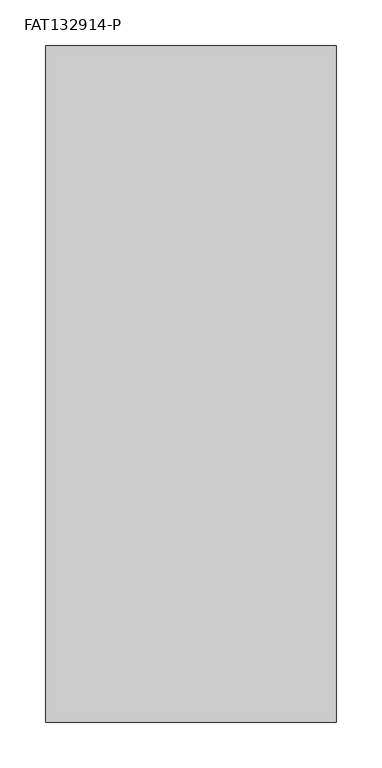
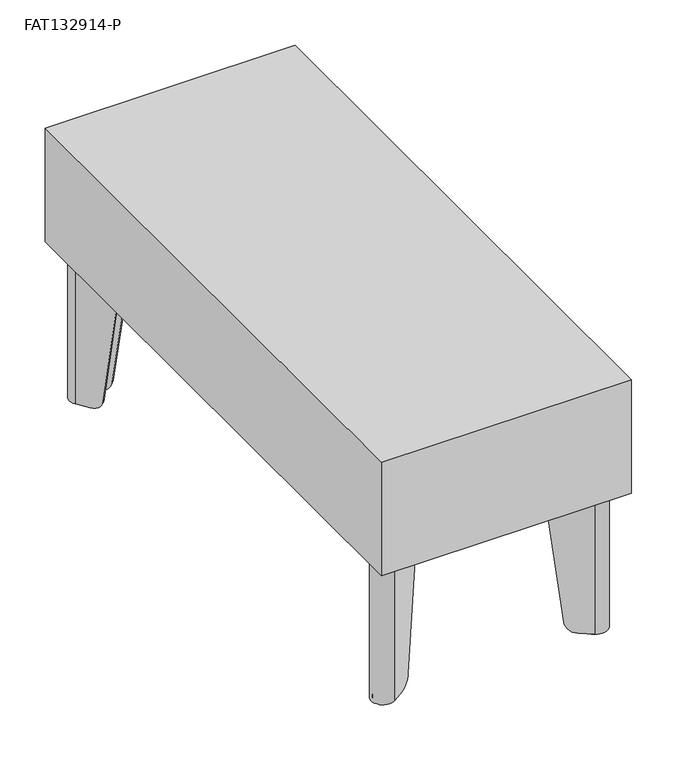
"""IFC4 building model written with IfcOpenShell, lengths in millimetres: furniture geometry, Stance_HC-Flora-Table_Straight : FAT132914-P."""

from ifc_helpers import new_model, si_unit, point, frame, frame_2d, origin, origin_with_axes, place, context, project, spatial, polyline, circle_curve, ellipse_curve, trimmed, segment, composite_curve, outline, extrude, source, transform, mapped, element, save
from ifc_brep_helpers import plane_surface, cylinder_surface, revolved_surface, advanced_brep


def fat132914_p_32fc218b(model_context):
    return source(origin(), model_context, "Body", "SolidModel", [
        extrude(outline(composite_curve([segment(polyline([(274.1779251, -48.593371), (287.4828248, -39.2771437)]), True, "CONTINUOUS"), segment(trimmed(circle_curve(frame_2d((294.1333442, -48.7750329)), 11.5947965), [point((287.4828248, -39.2771437))], [point((303.6312333, -55.4255523))], False, "CARTESIAN"), True, "CONTINUOUS"), segment(polyline([(303.6312333, -55.4255523), (294.315006, -68.730452), (274.1779251, -48.593371)]), True, "CONTINUOUS")], self_intersect=False)), frame((0.0, 0.0, 3.175), z_axis=(0.0, 0.0, 1.0), x_axis=(1.0, 0.0, 0.0)), (0.0, 0.0, 1.0), 3.3792927),
        advanced_brep(
        [(274.3401042, -102.8613619, 193.6877233), (306.2642107, -57.26919, 193.6877233), (285.6391871, -36.6441664, 193.6877233), (240.0470178, -68.568271, 193.6877233), (241.8906556, -71.2012484, 193.6877233), (287.4828248, -39.2771437, 193.6877233), (303.6312333, -55.4255523, 193.6877233), (271.7071268, -101.0177242, 193.6877233), (274.3401042, -102.8613619, 189.1419595), (303.6312333, -55.4255523, 3.1876992), (293.5105238, -69.8793673, 3.1876992), (284.3334277, -82.9855678, 17.1280233), (287.4828248, -39.2771437, 3.1876992), (259.9228092, -58.5749494, 17.1280233), (273.0290098, -49.3978533, 3.1876992), (240.0470178, -68.568271, 189.1419334), (285.6391871, -36.6441664, 3.1876992), (270.7211121, -47.0899556, 3.1876992), (257.6149115, -56.2670517, 17.1280233), (306.2642107, -57.26919, 3.1876992), (286.6413254, -85.2934656, 17.1280233), (295.8184215, -72.187265, 3.1876992)],
        [
            (0, 1),
            (1, 2, circle_curve(frame((294.1333442, -48.7750329, 193.6877233), z_axis=(0.0, 0.0, 1.0), x_axis=(-1.0, 0.0, 0.0)), 14.8090724)),
            (2, 3),
            (3, 4),
            (4, 5),
            (5, 6, circle_curve(frame((294.1333442, -48.7750329, 193.6877233), z_axis=(0.0, 0.0, -1.0), x_axis=(-1.0, 0.0, 0.0)), 11.5947965)),
            (6, 7),
            (7, 0),
            (7, 8),
            (8, 0),
            (6, 9),
            (9, 10),
            (10, 11, ellipse_curve(frame((293.5105238, -69.8793673, 19.0626992), z_axis=(-0.8191509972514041, 0.5735779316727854, 0.0), x_axis=(-0.5735779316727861, -0.8191509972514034, 0.0)), 16.1198923, 15.875)),
            (11, 7),
            (5, 12),
            (12, 9, circle_curve(frame((294.1333442, -48.7750329, 3.1876992), z_axis=(0.0, 0.0, -1.0), x_axis=(-1.0, 0.0, 0.0)), 11.5947965)),
            (4, 13),
            (13, 14, ellipse_curve(frame((273.0290098, -49.3978533, 19.0626992), z_axis=(0.5735779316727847, -0.8191509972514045, 0.0), x_axis=(0.8191509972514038, 0.5735779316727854, 0.0)), 16.1198923, 15.875)),
            (14, 12),
            (3, 15),
            (15, 4),
            (2, 16),
            (16, 17),
            (17, 18, ellipse_curve(frame((270.7211121, -47.0899556, 19.0626992), z_axis=(-0.5735779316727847, 0.8191509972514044, 0.0), x_axis=(0.8191509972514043, 0.573577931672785, 0.0)), 16.1198923, 15.875)),
            (18, 15),
            (1, 19),
            (19, 16, circle_curve(frame((294.1333442, -48.7750329, 3.1876992), z_axis=(0.0, 0.0, 1.0), x_axis=(-1.0, 0.0, 0.0)), 14.8090724)),
            (8, 20),
            (20, 21, ellipse_curve(frame((295.8184215, -72.187265, 19.0626992), z_axis=(0.8191509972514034, -0.5735779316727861, 0.0), x_axis=(-0.5735779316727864, -0.8191509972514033, 0.0)), 16.1198923, 15.875)),
            (21, 19),
            (18, 13),
            (11, 20),
            (21, 10),
            (14, 17),
        ],
        [
            plane_surface(frame((271.7071268, -101.0177242, 193.6877233), z_axis=(0.0, 0.0, 1.0000000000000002), x_axis=(-0.8191509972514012, 0.5735779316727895, 0.0))),
            plane_surface(frame((274.3401042, -102.8613619, 193.6877233), z_axis=(-0.5735779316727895, -0.8191509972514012, 0.0), x_axis=(0.0, 0.0, -1.0))),
            plane_surface(frame((271.7071268, -101.0177242, 193.6877233), z_axis=(-0.8191509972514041, 0.5735779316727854, 0.0), x_axis=(0.0, 0.0, -1.0))),
            revolved_surface(polyline([(282.53854770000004, -48.7750329, 3.1876992), (282.53854770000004, -48.7750329, 193.6877233)]), (294.1333442, -48.7750329, 0.0), (0.0, 0.0, -1.0)),
            plane_surface(frame((287.4828248, -39.2771437, 193.6877233), z_axis=(0.5735779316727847, -0.8191509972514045, 0.0), x_axis=(0.0, 0.0, -1.0))),
            plane_surface(frame((241.8906556, -71.2012484, 193.6877233), z_axis=(-0.8191509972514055, -0.5735779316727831, 0.0), x_axis=(0.0, 0.0, -1.0))),
            plane_surface(frame((240.0470178, -68.568271, 193.6877233), z_axis=(-0.5735779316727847, 0.8191509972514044, 0.0), x_axis=(0.0, 0.0, -1.0))),
            cylinder_surface(frame((294.1333442, -48.7750329, 0.0), z_axis=(0.0, 0.0, 1.0), x_axis=(-1.0, 0.0, 0.0)), 14.8090724),
            plane_surface(frame((306.2642107, -57.26919, 193.6877233), z_axis=(0.8191509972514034, -0.5735779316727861, 0.0), x_axis=(0.0, 0.0, -1.0))),
            plane_surface(frame((251.7311084, -50.3832485, 17.1280233), z_axis=(-0.7018361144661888, -0.7018361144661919, -0.12186934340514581), x_axis=(0.7071067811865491, -0.707106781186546, 0.0))),
            plane_surface(frame((284.2214639, -17.8928931, 3.1876992), z_axis=(0.0, 0.0, -1.0), x_axis=(0.707106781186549, -0.707106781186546, 0.0))),
            cylinder_surface(frame((303.6583998, -80.0272433, 19.0626992), z_axis=(0.7071067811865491, -0.707106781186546, 0.0), x_axis=(-0.707106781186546, -0.7071067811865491, 0.0)), 15.875),
        ],
        [
            (0, [[1, 2, 3, 4, 5, 6, 7, 8]]),
            (1, [[9, 10, -8]]),
            (2, [[11, 12, 13, 14, -7]]),
            (3, [[15, 16, -11, -6]]),
            (4, [[17, 18, 19, -15, -5]]),
            (5, [[20, 21, -4]]),
            (6, [[22, 23, 24, 25, -20, -3]]),
            (7, [[26, 27, -22, -2]]),
            (8, [[-10, 28, 29, 30, -26, -1]]),
            (9, [[-17, -21, -25, 31]]),
            (9, [[-28, -9, -14, 32]]),
            (10, [[-23, -27, -30, 33, -12, -16, -19, 34]]),
            (11, [[-13, -33, -29, -32]]),
            (11, [[-24, -34, -18, -31]]),
        ],
    ),
        extrude(outline(composite_curve([segment(trimmed(circle_curve(frame_2d((292.1, -50.8)), 11.1125), [point((303.2125, -50.8))], [point((280.9875, -50.8))], False, "CARTESIAN"), True, "CONTINUOUS"), segment(trimmed(circle_curve(frame_2d((292.1, -50.8)), 11.1125), [point((280.9875, -50.8))], [point((303.2125, -50.8))], False, "CARTESIAN"), True, "CONTINUOUS")], self_intersect=False)), origin_with_axes(), (0.0, 0.0, 1.0), 3.175),
        extrude(outline(composite_curve([segment(trimmed(circle_curve(frame_2d((295.4524523, -47.4559239)), 15.8749964), [point((294.3450687, -31.6195983))], [point((311.288778, -48.5633073))], False, "CARTESIAN"), True, "CONTINUOUS"), segment(polyline([(311.288778, -48.5633073), (304.2918062, -148.6247029), (274.4414324, -178.4750713), (190.4983323, -152.4100523), (164.4332978, -68.4669439), (194.2836699, -38.6165718), (294.3450687, -31.6195983)]), True, "CONTINUOUS")], self_intersect=False)), frame((0.0, 0.0, 193.6877233), z_axis=(0.0, 0.0, 1.0), x_axis=(1.0, 0.0, 0.0)), (0.0, 0.0, 1.0), 4.7751809),
        extrude(outline(composite_curve([segment(polyline([(274.1779251, -713.406629), (294.315006, -693.269548), (303.6312333, -706.5744477)]), True, "CONTINUOUS"), segment(trimmed(circle_curve(frame_2d((294.1333442, -713.2249671)), 11.5947965), [point((303.6312333, -706.5744477))], [point((287.4828248, -722.7228563))], False, "CARTESIAN"), True, "CONTINUOUS"), segment(polyline([(287.4828248, -722.7228563), (274.1779251, -713.406629)]), True, "CONTINUOUS")], self_intersect=False)), frame((0.0, 0.0, 3.175), z_axis=(0.0, 0.0, 1.0), x_axis=(1.0, 0.0, 0.0)), (0.0, 0.0, 1.0), 3.3792927),
        advanced_brep(
        [(274.3401042, -659.1386381, 193.6877233), (271.7071268, -660.9822758, 193.6877233), (303.6312333, -706.5744477, 193.6877233), (287.4828248, -722.7228563, 193.6877233), (241.8906556, -690.7987516, 193.6877233), (240.0470178, -693.431729, 193.6877233), (285.6391871, -725.3558336, 193.6877233), (306.2642107, -704.73081, 193.6877233), (274.3401042, -659.1386381, 189.1419595), (284.3334277, -679.0144322, 17.1280233), (293.5105238, -692.1206327, 3.1876992), (303.6312333, -706.5744477, 3.1876992), (287.4828248, -722.7228563, 3.1876992), (273.0290098, -712.6021467, 3.1876992), (259.9228092, -703.4250506, 17.1280233), (240.0470178, -693.431729, 189.1419334), (257.6149115, -705.7329483, 17.1280233), (270.7211121, -714.9100444, 3.1876992), (285.6391871, -725.3558336, 3.1876992), (306.2642107, -704.73081, 3.1876992), (295.8184215, -689.812735, 3.1876992), (286.6413254, -676.7065344, 17.1280233)],
        [
            (0, 1),
            (1, 2),
            (2, 3, circle_curve(frame((294.1333442, -713.2249671, 193.6877233), z_axis=(0.0, 0.0, -1.0), x_axis=(-1.0, 0.0, 0.0)), 11.5947965)),
            (3, 4),
            (4, 5),
            (5, 6),
            (6, 7, circle_curve(frame((294.1333442, -713.2249671, 193.6877233), z_axis=(0.0, 0.0, 1.0), x_axis=(-1.0, 0.0, 0.0)), 14.8090724)),
            (7, 0),
            (0, 8),
            (8, 1),
            (1, 9),
            (9, 10, ellipse_curve(frame((293.5105238, -692.1206327, 19.0626992), z_axis=(-0.8191509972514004, -0.5735779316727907, 0.0), x_axis=(-0.5735779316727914, 0.8191509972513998, 0.0)), 16.1198923, 15.875)),
            (10, 11),
            (11, 2),
            (11, 12, circle_curve(frame((294.1333442, -713.2249671, 3.1876992), z_axis=(0.0, 0.0, -1.0), x_axis=(-1.0, 0.0, 0.0)), 11.5947965)),
            (12, 3),
            (12, 13),
            (13, 14, ellipse_curve(frame((273.0290098, -712.6021467, 19.0626992), z_axis=(0.5735779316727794, 0.8191509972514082, 0.0), x_axis=(0.8191509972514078, -0.5735779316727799, 0.0)), 16.1198923, 15.875)),
            (14, 4),
            (4, 15),
            (15, 5),
            (15, 16),
            (16, 17, ellipse_curve(frame((270.7211121, -714.9100444, 19.0626992), z_axis=(-0.5735779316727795, -0.8191509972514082, 0.0), x_axis=(0.8191509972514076, -0.5735779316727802, 0.0)), 16.1198923, 15.875)),
            (17, 18),
            (18, 6),
            (18, 19, circle_curve(frame((294.1333442, -713.2249671, 3.1876992), z_axis=(0.0, 0.0, 1.0), x_axis=(-1.0, 0.0, 0.0)), 14.8090724)),
            (19, 7),
            (19, 20),
            (20, 21, ellipse_curve(frame((295.8184215, -689.812735, 19.0626992), z_axis=(0.8191509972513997, 0.5735779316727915, 0.0), x_axis=(-0.573577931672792, 0.8191509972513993, 0.0)), 16.1198923, 15.875)),
            (21, 8),
            (14, 16),
            (21, 9),
            (17, 13),
            (10, 20),
        ],
        [
            plane_surface(frame((271.7071268, -660.9822758, 193.6877233), z_axis=(0.0, 0.0, 0.9999999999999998), x_axis=(-0.8191509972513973, -0.5735779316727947, 0.0))),
            plane_surface(frame((274.3401042, -659.1386381, 193.6877233), z_axis=(-0.5735779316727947, 0.8191509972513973, 0.0), x_axis=(0.0, 0.0, -1.0))),
            plane_surface(frame((271.7071268, -660.9822758, 193.6877233), z_axis=(-0.8191509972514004, -0.5735779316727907, 0.0), x_axis=(0.0, 0.0, -1.0))),
            revolved_surface(polyline([(282.53854770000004, -713.2249671, 3.1876992), (282.53854770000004, -713.2249671, 193.6877233)]), (294.1333442, -713.2249671, 0.0), (0.0, 0.0, -1.0)),
            plane_surface(frame((287.4828248, -722.7228563, 193.6877233), z_axis=(0.5735779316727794, 0.8191509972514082, 0.0), x_axis=(0.0, 0.0, -1.0))),
            plane_surface(frame((241.8906556, -690.7987516, 193.6877233), z_axis=(-0.8191509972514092, 0.5735779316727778, 0.0), x_axis=(0.0, 0.0, -1.0))),
            plane_surface(frame((240.0470178, -693.431729, 193.6877233), z_axis=(-0.5735779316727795, -0.8191509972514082, 0.0), x_axis=(0.0, 0.0, -1.0))),
            cylinder_surface(frame((294.1333442, -713.2249671, 0.0), z_axis=(0.0, 0.0, 1.0), x_axis=(-1.0, 0.0, 0.0)), 14.8090724),
            plane_surface(frame((306.2642107, -704.73081, 193.6877233), z_axis=(0.8191509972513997, 0.5735779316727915, 0.0), x_axis=(0.0, 0.0, -1.0))),
            plane_surface(frame((251.7311084, -711.6167515, 17.1280233), z_axis=(-0.7018361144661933, 0.7018361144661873, -0.12186934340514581), x_axis=(0.7071067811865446, 0.7071067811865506, 0.0))),
            plane_surface(frame((284.2214639, -744.1071069, 3.1876992), z_axis=(0.0, 0.0, -1.0), x_axis=(0.7071067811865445, 0.7071067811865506, 0.0))),
            cylinder_surface(frame((303.6583998, -681.9727567, 19.0626992), z_axis=(0.7071067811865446, 0.7071067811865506, 0.0), x_axis=(-0.7071067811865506, 0.7071067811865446, 0.0)), 15.875),
        ],
        [
            (0, [[1, 2, 3, 4, 5, 6, 7, 8]]),
            (1, [[-1, 9, 10]]),
            (2, [[-2, 11, 12, 13, 14]]),
            (3, [[-3, -14, 15, 16]]),
            (4, [[-4, -16, 17, 18, 19]]),
            (5, [[-5, 20, 21]]),
            (6, [[-6, -21, 22, 23, 24, 25]]),
            (7, [[-7, -25, 26, 27]]),
            (8, [[-8, -27, 28, 29, 30, -9]]),
            (9, [[31, -22, -20, -19]]),
            (9, [[32, -11, -10, -30]]),
            (10, [[33, -17, -15, -13, 34, -28, -26, -24]]),
            (11, [[-31, -18, -33, -23]]),
            (11, [[-32, -29, -34, -12]]),
        ],
    ),
        extrude(outline(composite_curve([segment(trimmed(circle_curve(frame_2d((292.1, -711.2)), 11.1125), [point((303.2125, -711.2))], [point((280.9875, -711.2))], False, "CARTESIAN"), True, "CONTINUOUS"), segment(trimmed(circle_curve(frame_2d((292.1, -711.2)), 11.1125), [point((280.9875, -711.2))], [point((303.2125, -711.2))], False, "CARTESIAN"), True, "CONTINUOUS")], self_intersect=False)), origin_with_axes(), (0.0, 0.0, 1.0), 3.175),
        extrude(outline(composite_curve([segment(polyline([(294.3450687, -730.3804017), (194.2836699, -723.3834282), (164.4332978, -693.5330561), (190.4983323, -609.5899477), (274.4414324, -583.5249287), (304.2918062, -613.3752971), (311.288778, -713.4366927)]), True, "CONTINUOUS"), segment(trimmed(circle_curve(frame_2d((295.4524523, -714.5440761)), 15.8749964), [point((311.288778, -713.4366927))], [point((294.3450687, -730.3804017))], False, "CARTESIAN"), True, "CONTINUOUS")], self_intersect=False)), frame((0.0, 0.0, 193.6877233), z_axis=(0.0, 0.0, 1.0), x_axis=(1.0, 0.0, 0.0)), (0.0, 0.0, 1.0), 4.7751809),
        extrude(outline(composite_curve([segment(polyline([(43.3220749, -713.406629), (30.0171752, -722.7228563)]), True, "CONTINUOUS"), segment(trimmed(circle_curve(frame_2d((23.3666558, -713.2249671)), 11.5947965), [point((30.0171752, -722.7228563))], [point((13.8687667, -706.5744477))], False, "CARTESIAN"), True, "CONTINUOUS"), segment(polyline([(13.8687667, -706.5744477), (23.184994, -693.269548), (43.3220749, -713.406629)]), True, "CONTINUOUS")], self_intersect=False)), frame((0.0, 0.0, 3.175), z_axis=(0.0, 0.0, 1.0), x_axis=(1.0, 0.0, 0.0)), (0.0, 0.0, 1.0), 3.3792927),
        advanced_brep(
        [(43.1598958, -659.1386381, 193.6877233), (11.2357893, -704.73081, 193.6877233), (31.8608129, -725.3558336, 193.6877233), (77.4529822, -693.431729, 193.6877233), (75.6093444, -690.7987516, 193.6877233), (30.0171752, -722.7228563, 193.6877233), (13.8687667, -706.5744477, 193.6877233), (45.7928732, -660.9822758, 193.6877233), (43.1598958, -659.1386381, 189.1419595), (13.8687667, -706.5744477, 3.1876992), (23.9894762, -692.1206327, 3.1876992), (33.1665723, -679.0144322, 17.1280233), (30.0171752, -722.7228563, 3.1876992), (57.5771908, -703.4250506, 17.1280233), (44.4709902, -712.6021467, 3.1876992), (77.4529822, -693.431729, 189.1419334), (31.8608129, -725.3558336, 3.1876992), (46.7788879, -714.9100444, 3.1876992), (59.8850885, -705.7329483, 17.1280233), (11.2357893, -704.73081, 3.1876992), (30.8586746, -676.7065344, 17.1280233), (21.6815785, -689.812735, 3.1876992)],
        [
            (0, 1),
            (1, 2, circle_curve(frame((23.3666558, -713.2249671, 193.6877233), z_axis=(0.0, 0.0, 1.0), x_axis=(1.0, 0.0, 0.0)), 14.8090724)),
            (2, 3),
            (3, 4),
            (4, 5),
            (5, 6, circle_curve(frame((23.3666558, -713.2249671, 193.6877233), z_axis=(0.0, 0.0, -1.0), x_axis=(1.0, 0.0, 0.0)), 11.5947965)),
            (6, 7),
            (7, 0),
            (7, 8),
            (8, 0),
            (6, 9),
            (9, 10),
            (10, 11, ellipse_curve(frame((23.9894762, -692.1206327, 19.0626992), z_axis=(0.8191509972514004, -0.5735779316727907, 0.0), x_axis=(0.5735779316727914, 0.8191509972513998, 0.0)), 16.1198923, 15.875)),
            (11, 7),
            (5, 12),
            (12, 9, circle_curve(frame((23.3666558, -713.2249671, 3.1876992), z_axis=(0.0, 0.0, -1.0), x_axis=(1.0, 0.0, 0.0)), 11.5947965)),
            (4, 13),
            (13, 14, ellipse_curve(frame((44.4709902, -712.6021467, 19.0626992), z_axis=(-0.5735779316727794, 0.8191509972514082, 0.0), x_axis=(-0.8191509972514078, -0.5735779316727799, 0.0)), 16.1198923, 15.875)),
            (14, 12),
            (3, 15),
            (15, 4),
            (2, 16),
            (16, 17),
            (17, 18, ellipse_curve(frame((46.7788879, -714.9100444, 19.0626992), z_axis=(0.5735779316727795, -0.8191509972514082, 0.0), x_axis=(-0.8191509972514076, -0.5735779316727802, 0.0)), 16.1198923, 15.875)),
            (18, 15),
            (1, 19),
            (19, 16, circle_curve(frame((23.3666558, -713.2249671, 3.1876992), z_axis=(0.0, 0.0, 1.0), x_axis=(1.0, 0.0, 0.0)), 14.8090724)),
            (8, 20),
            (20, 21, ellipse_curve(frame((21.6815785, -689.812735, 19.0626992), z_axis=(-0.8191509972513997, 0.5735779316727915, 0.0), x_axis=(0.573577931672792, 0.8191509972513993, 0.0)), 16.1198923, 15.875)),
            (21, 19),
            (18, 13),
            (11, 20),
            (21, 10),
            (14, 17),
        ],
        [
            plane_surface(frame((45.7928732, -660.9822758, 193.6877233), z_axis=(0.0, 0.0, 0.9999999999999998), x_axis=(0.8191509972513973, -0.5735779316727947, 0.0))),
            plane_surface(frame((43.1598958, -659.1386381, 193.6877233), z_axis=(0.5735779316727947, 0.8191509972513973, 0.0), x_axis=(0.0, 0.0, -1.0))),
            plane_surface(frame((45.7928732, -660.9822758, 193.6877233), z_axis=(0.8191509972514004, -0.5735779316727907, 0.0), x_axis=(0.0, 0.0, -1.0))),
            revolved_surface(polyline([(34.9614523, -713.2249671, 3.1876992), (34.9614523, -713.2249671, 193.6877233)]), (23.3666558, -713.2249671, 0.0), (0.0, 0.0, -1.0)),
            plane_surface(frame((30.0171752, -722.7228563, 193.6877233), z_axis=(-0.5735779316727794, 0.8191509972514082, 0.0), x_axis=(0.0, 0.0, -1.0))),
            plane_surface(frame((75.6093444, -690.7987516, 193.6877233), z_axis=(0.8191509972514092, 0.5735779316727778, 0.0), x_axis=(0.0, 0.0, -1.0))),
            plane_surface(frame((77.4529822, -693.431729, 193.6877233), z_axis=(0.5735779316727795, -0.8191509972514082, 0.0), x_axis=(0.0, 0.0, -1.0))),
            cylinder_surface(frame((23.3666558, -713.2249671, 0.0), z_axis=(0.0, 0.0, 1.0), x_axis=(1.0, 0.0, 0.0)), 14.8090724),
            plane_surface(frame((11.2357893, -704.73081, 193.6877233), z_axis=(-0.8191509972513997, 0.5735779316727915, 0.0), x_axis=(0.0, 0.0, -1.0))),
            plane_surface(frame((65.7688916, -711.6167515, 17.1280233), z_axis=(0.7018361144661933, 0.7018361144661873, -0.12186934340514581), x_axis=(-0.7071067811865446, 0.7071067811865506, 0.0))),
            plane_surface(frame((33.2785361, -744.1071069, 3.1876992), z_axis=(0.0, 0.0, -1.0), x_axis=(-0.7071067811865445, 0.7071067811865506, 0.0))),
            cylinder_surface(frame((13.8416002, -681.9727567, 19.0626992), z_axis=(-0.7071067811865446, 0.7071067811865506, 0.0), x_axis=(0.7071067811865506, 0.7071067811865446, 0.0)), 15.875),
        ],
        [
            (0, [[1, 2, 3, 4, 5, 6, 7, 8]]),
            (1, [[9, 10, -8]]),
            (2, [[11, 12, 13, 14, -7]]),
            (3, [[15, 16, -11, -6]]),
            (4, [[17, 18, 19, -15, -5]]),
            (5, [[20, 21, -4]]),
            (6, [[22, 23, 24, 25, -20, -3]]),
            (7, [[26, 27, -22, -2]]),
            (8, [[-10, 28, 29, 30, -26, -1]]),
            (9, [[-17, -21, -25, 31]]),
            (9, [[-28, -9, -14, 32]]),
            (10, [[-23, -27, -30, 33, -12, -16, -19, 34]]),
            (11, [[-13, -33, -29, -32]]),
            (11, [[-24, -34, -18, -31]]),
        ],
    ),
        extrude(outline(composite_curve([segment(trimmed(circle_curve(frame_2d((25.4, -711.2)), 11.1125), [point((14.2875, -711.2))], [point((36.5125, -711.2))], False, "CARTESIAN"), True, "CONTINUOUS"), segment(trimmed(circle_curve(frame_2d((25.4, -711.2)), 11.1125), [point((36.5125, -711.2))], [point((14.2875, -711.2))], False, "CARTESIAN"), True, "CONTINUOUS")], self_intersect=False)), origin_with_axes(), (0.0, 0.0, 1.0), 3.175),
        extrude(outline(composite_curve([segment(trimmed(circle_curve(frame_2d((22.0475477, -714.5440761)), 15.8749964), [point((23.1549313, -730.3804017))], [point((6.211222, -713.4366927))], False, "CARTESIAN"), True, "CONTINUOUS"), segment(polyline([(6.211222, -713.4366927), (13.2081938, -613.3752971), (43.0585676, -583.5249287), (127.0016677, -609.5899477), (153.0667022, -693.5330561), (123.2163301, -723.3834282), (23.1549313, -730.3804017)]), True, "CONTINUOUS")], self_intersect=False)), frame((0.0, 0.0, 193.6877233), z_axis=(0.0, 0.0, 1.0), x_axis=(1.0, 0.0, 0.0)), (0.0, 0.0, 1.0), 4.7751809),
        extrude(outline(composite_curve([segment(polyline([(43.3220749, -48.593371), (23.184994, -68.730452), (13.8687667, -55.4255523)]), True, "CONTINUOUS"), segment(trimmed(circle_curve(frame_2d((23.3666558, -48.7750329)), 11.5947965), [point((13.8687667, -55.4255523))], [point((30.0171752, -39.2771437))], False, "CARTESIAN"), True, "CONTINUOUS"), segment(polyline([(30.0171752, -39.2771437), (43.3220749, -48.593371)]), True, "CONTINUOUS")], self_intersect=False)), frame((0.0, 0.0, 3.175), z_axis=(0.0, 0.0, 1.0), x_axis=(1.0, 0.0, 0.0)), (0.0, 0.0, 1.0), 3.3792927),
        advanced_brep(
        [(43.1598958, -102.8613619, 193.6877233), (45.7928732, -101.0177242, 193.6877233), (13.8687667, -55.4255523, 193.6877233), (30.0171752, -39.2771437, 193.6877233), (75.6093444, -71.2012484, 193.6877233), (77.4529822, -68.568271, 193.6877233), (31.8608129, -36.6441664, 193.6877233), (11.2357893, -57.26919, 193.6877233), (43.1598958, -102.8613619, 189.1419595), (33.1665723, -82.9855678, 17.1280233), (23.9894762, -69.8793673, 3.1876992), (13.8687667, -55.4255523, 3.1876992), (30.0171752, -39.2771437, 3.1876992), (44.4709902, -49.3978533, 3.1876992), (57.5771908, -58.5749494, 17.1280233), (77.4529822, -68.568271, 189.1419334), (59.8850885, -56.2670517, 17.1280233), (46.7788879, -47.0899556, 3.1876992), (31.8608129, -36.6441664, 3.1876992), (11.2357893, -57.26919, 3.1876992), (21.6815785, -72.187265, 3.1876992), (30.8586746, -85.2934656, 17.1280233)],
        [
            (0, 1),
            (1, 2),
            (2, 3, circle_curve(frame((23.3666558, -48.7750329, 193.6877233), z_axis=(0.0, 0.0, -1.0), x_axis=(1.0, 0.0, 0.0)), 11.5947965)),
            (3, 4),
            (4, 5),
            (5, 6),
            (6, 7, circle_curve(frame((23.3666558, -48.7750329, 193.6877233), z_axis=(0.0, 0.0, 1.0), x_axis=(1.0, 0.0, 0.0)), 14.8090724)),
            (7, 0),
            (0, 8),
            (8, 1),
            (1, 9),
            (9, 10, ellipse_curve(frame((23.9894762, -69.8793673, 19.0626992), z_axis=(0.8191509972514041, 0.5735779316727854, 0.0), x_axis=(0.5735779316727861, -0.8191509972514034, 0.0)), 16.1198923, 15.875)),
            (10, 11),
            (11, 2),
            (11, 12, circle_curve(frame((23.3666558, -48.7750329, 3.1876992), z_axis=(0.0, 0.0, -1.0), x_axis=(1.0, 0.0, 0.0)), 11.5947965)),
            (12, 3),
            (12, 13),
            (13, 14, ellipse_curve(frame((44.4709902, -49.3978533, 19.0626992), z_axis=(-0.5735779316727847, -0.8191509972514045, 0.0), x_axis=(-0.8191509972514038, 0.5735779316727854, 0.0)), 16.1198923, 15.875)),
            (14, 4),
            (4, 15),
            (15, 5),
            (15, 16),
            (16, 17, ellipse_curve(frame((46.7788879, -47.0899556, 19.0626992), z_axis=(0.5735779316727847, 0.8191509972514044, 0.0), x_axis=(-0.8191509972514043, 0.573577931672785, 0.0)), 16.1198923, 15.875)),
            (17, 18),
            (18, 6),
            (18, 19, circle_curve(frame((23.3666558, -48.7750329, 3.1876992), z_axis=(0.0, 0.0, 1.0), x_axis=(1.0, 0.0, 0.0)), 14.8090724)),
            (19, 7),
            (19, 20),
            (20, 21, ellipse_curve(frame((21.6815785, -72.187265, 19.0626992), z_axis=(-0.8191509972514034, -0.5735779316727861, 0.0), x_axis=(0.5735779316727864, -0.8191509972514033, 0.0)), 16.1198923, 15.875)),
            (21, 8),
            (14, 16),
            (21, 9),
            (17, 13),
            (10, 20),
        ],
        [
            plane_surface(frame((45.7928732, -101.0177242, 193.6877233), z_axis=(0.0, 0.0, 1.0000000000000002), x_axis=(0.8191509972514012, 0.5735779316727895, 0.0))),
            plane_surface(frame((43.1598958, -102.8613619, 193.6877233), z_axis=(0.5735779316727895, -0.8191509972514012, 0.0), x_axis=(0.0, 0.0, -1.0))),
            plane_surface(frame((45.7928732, -101.0177242, 193.6877233), z_axis=(0.8191509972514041, 0.5735779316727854, 0.0), x_axis=(0.0, 0.0, -1.0))),
            revolved_surface(polyline([(34.9614523, -48.7750329, 3.1876992), (34.9614523, -48.7750329, 193.6877233)]), (23.3666558, -48.7750329, 0.0), (0.0, 0.0, -1.0)),
            plane_surface(frame((30.0171752, -39.2771437, 193.6877233), z_axis=(-0.5735779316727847, -0.8191509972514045, 0.0), x_axis=(0.0, 0.0, -1.0))),
            plane_surface(frame((75.6093444, -71.2012484, 193.6877233), z_axis=(0.8191509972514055, -0.5735779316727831, 0.0), x_axis=(0.0, 0.0, -1.0))),
            plane_surface(frame((77.4529822, -68.568271, 193.6877233), z_axis=(0.5735779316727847, 0.8191509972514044, 0.0), x_axis=(0.0, 0.0, -1.0))),
            cylinder_surface(frame((23.3666558, -48.7750329, 0.0), z_axis=(0.0, 0.0, 1.0), x_axis=(1.0, 0.0, 0.0)), 14.8090724),
            plane_surface(frame((11.2357893, -57.26919, 193.6877233), z_axis=(-0.8191509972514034, -0.5735779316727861, 0.0), x_axis=(0.0, 0.0, -1.0))),
            plane_surface(frame((65.7688916, -50.3832485, 17.1280233), z_axis=(0.7018361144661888, -0.7018361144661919, -0.12186934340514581), x_axis=(-0.7071067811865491, -0.707106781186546, 0.0))),
            plane_surface(frame((33.2785361, -17.8928931, 3.1876992), z_axis=(0.0, 0.0, -1.0), x_axis=(-0.707106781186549, -0.707106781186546, 0.0))),
            cylinder_surface(frame((13.8416002, -80.0272433, 19.0626992), z_axis=(-0.7071067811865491, -0.707106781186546, 0.0), x_axis=(0.707106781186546, -0.7071067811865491, 0.0)), 15.875),
        ],
        [
            (0, [[1, 2, 3, 4, 5, 6, 7, 8]]),
            (1, [[-1, 9, 10]]),
            (2, [[-2, 11, 12, 13, 14]]),
            (3, [[-3, -14, 15, 16]]),
            (4, [[-4, -16, 17, 18, 19]]),
            (5, [[-5, 20, 21]]),
            (6, [[-6, -21, 22, 23, 24, 25]]),
            (7, [[-7, -25, 26, 27]]),
            (8, [[-8, -27, 28, 29, 30, -9]]),
            (9, [[31, -22, -20, -19]]),
            (9, [[32, -11, -10, -30]]),
            (10, [[33, -17, -15, -13, 34, -28, -26, -24]]),
            (11, [[-31, -18, -33, -23]]),
            (11, [[-32, -29, -34, -12]]),
        ],
    ),
        extrude(outline(composite_curve([segment(trimmed(circle_curve(frame_2d((25.4, -50.8)), 11.1125), [point((14.2875, -50.8))], [point((36.5125, -50.8))], False, "CARTESIAN"), True, "CONTINUOUS"), segment(trimmed(circle_curve(frame_2d((25.4, -50.8)), 11.1125), [point((36.5125, -50.8))], [point((14.2875, -50.8))], False, "CARTESIAN"), True, "CONTINUOUS")], self_intersect=False)), origin_with_axes(), (0.0, 0.0, 1.0), 3.175),
        extrude(outline(composite_curve([segment(polyline([(23.1549313, -31.6195983), (123.2163301, -38.6165718), (153.0667022, -68.4669439), (127.0016677, -152.4100523), (43.0585676, -178.4750713), (13.2081938, -148.6247029), (6.211222, -48.5633073)]), True, "CONTINUOUS"), segment(trimmed(circle_curve(frame_2d((22.0475477, -47.4559239)), 15.8749964), [point((6.211222, -48.5633073))], [point((23.1549313, -31.6195983))], False, "CARTESIAN"), True, "CONTINUOUS")], self_intersect=False)), frame((0.0, 0.0, 193.6877233), z_axis=(0.0, 0.0, 1.0), x_axis=(1.0, 0.0, 0.0)), (0.0, 0.0, 1.0), 4.7751809),
        extrude(outline(polyline([(317.5, -11.1125), (317.5, -750.8875), (0.0, -750.8875), (0.0, -11.1125), (317.5, -11.1125)])), frame((0.0, 0.0, 196.85), z_axis=(0.0, 0.0, 1.0), x_axis=(1.0, 0.0, 0.0)), (0.0, 0.0, 1.0), 152.399991),
    ])


if __name__ == "__main__":
    model = new_model("IFC4")
    model_context = context("Model", 3, world=origin())
    ifc_project = project(units=[si_unit("LENGTHUNIT", "METRE", prefix="MILLI")], contexts=[model_context])
    site = spatial("IfcSite", under=ifc_project)
    building = spatial("IfcBuilding", under=site)
    placement = place(None, origin())
    fat132914_p_shape = fat132914_p_32fc218b(model_context)
    element("IfcFurniture", 1, ObjectType="Stance_HC-Flora-Table_Straight : FAT132914-P", at=placement, inside=building, context=model_context, shape_type="MappedRepresentation", body=[
        mapped(fat132914_p_shape, transform((0.0, 0.0, 0.0), x_axis=(1.0, 0.0, 0.0), y_axis=(0.0, 1.0, 0.0), z_axis=(0.0, 0.0, 1.0))),
    ])
    save(model, "model.ifc")
